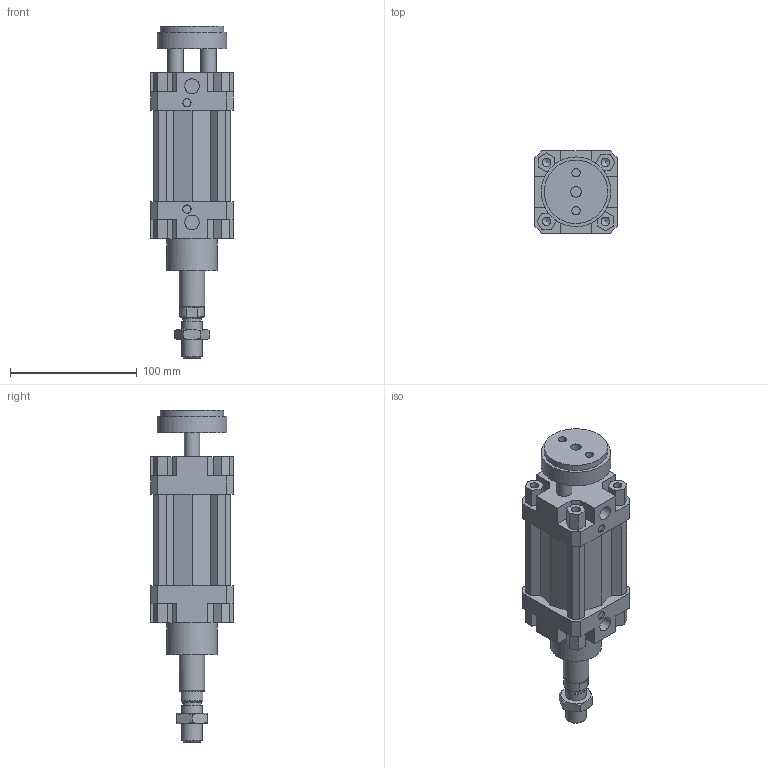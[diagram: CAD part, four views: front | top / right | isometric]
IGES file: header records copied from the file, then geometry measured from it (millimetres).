
Global section: file name: 132#_050_0025_02; native system: Autodesk Inventor 2014; preprocessor: unknown; author: A. Manieri; date: 20161006.155642; units: millimetre
Bounding box: 65 x 65 x 262 mm (x, y, z)
Volume: 478815.1 mm3; surface area: 110382.1 mm2
Topology: 3 solids, 3 shells, 220 faces, 590 edges, 398 vertices
Faces by surface type: bspline 220
